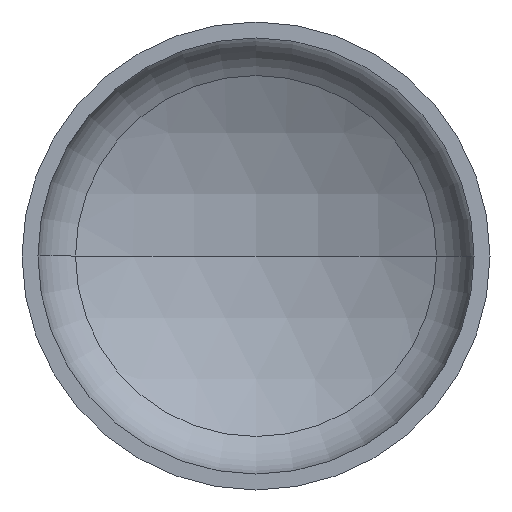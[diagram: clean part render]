
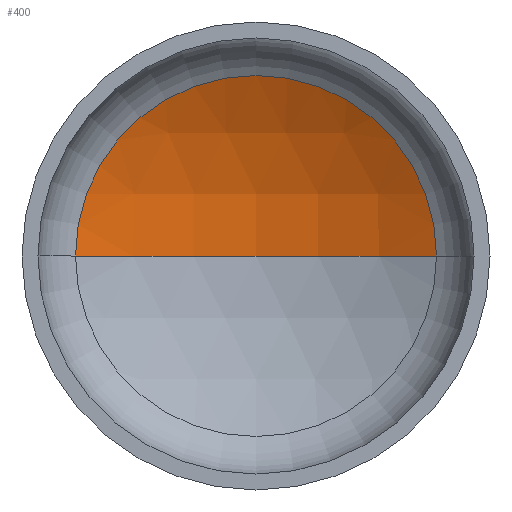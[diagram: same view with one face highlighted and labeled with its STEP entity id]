
A CAD part, front view. The second image highlights one B-rep face of the part: STEP entity #400.
In plain terms, the highlighted spherical face has radius 800 mm.
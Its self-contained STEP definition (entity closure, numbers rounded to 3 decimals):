
#2 = EDGE_LOOP ( 'NONE', ( #346, #138, #111 ) ) ;
#4 = AXIS2_PLACEMENT_3D ( 'NONE', #245, #408, #264 ) ;
#23 = DIRECTION ( 'NONE',  ( -1., 0., 0. ) ) ;
#35 = AXIS2_PLACEMENT_3D ( 'NONE', #333, #279, #85 ) ;
#39 = AXIS2_PLACEMENT_3D ( 'NONE', #320, #372, #23 ) ;
#40 = AXIS2_PLACEMENT_3D ( 'NONE', #192, #360, #218 ) ;
#63 = VERTEX_POINT ( 'NONE', #233 ) ;
#85 = DIRECTION ( 'NONE',  ( 1., 0., 0. ) ) ;
#94 = EDGE_CURVE ( 'NONE', #63, #106, #313, .T. ) ;
#95 = EDGE_CURVE ( 'NONE', #134, #63, #255, .T. ) ;
#105 = EDGE_CURVE ( 'NONE', #134, #106, #122, .T. ) ;
#106 = VERTEX_POINT ( 'NONE', #340 ) ;
#111 = ORIENTED_EDGE ( 'NONE', *, *, #94, .T. ) ;
#122 = CIRCLE ( 'NONE', #35, 800. ) ;
#134 = VERTEX_POINT ( 'NONE', #211 ) ;
#138 = ORIENTED_EDGE ( 'NONE', *, *, #95, .T. ) ;
#192 = CARTESIAN_POINT ( 'NONE',  ( 0., 245.792, 0. ) ) ;
#211 = CARTESIAN_POINT ( 'NONE',  ( 0., 344.93, 0. ) ) ;
#218 = DIRECTION ( 'NONE',  ( 1., 0., 0. ) ) ;
#233 = CARTESIAN_POINT ( 'NONE',  ( 385.736, 245.792, 0. ) ) ;
#245 = CARTESIAN_POINT ( 'NONE',  ( 0., -455.07, 0. ) ) ;
#255 = CIRCLE ( 'NONE', #39, 800. ) ;
#257 = FACE_OUTER_BOUND ( 'NONE', #2, .T. ) ;
#264 = DIRECTION ( 'NONE',  ( -1., 0., 0. ) ) ;
#265 = SPHERICAL_SURFACE ( 'NONE', #4, 800. ) ;
#279 = DIRECTION ( 'NONE',  ( 0., 0., 1. ) ) ;
#313 = CIRCLE ( 'NONE', #40, 385.736 ) ;
#320 = CARTESIAN_POINT ( 'NONE',  ( 0., -455.07, 0. ) ) ;
#333 = CARTESIAN_POINT ( 'NONE',  ( 0., -455.07, 0. ) ) ;
#340 = CARTESIAN_POINT ( 'NONE',  ( -385.736, 245.792, 0. ) ) ;
#346 = ORIENTED_EDGE ( 'NONE', *, *, #105, .F. ) ;
#360 = DIRECTION ( 'NONE',  ( 0., -1., 0. ) ) ;
#372 = DIRECTION ( 'NONE',  ( 0., 0., -1. ) ) ;
#400 = ADVANCED_FACE ( 'NONE', ( #257 ), #265, .F. ) ;
#408 = DIRECTION ( 'NONE',  ( 0., 0., -1. ) ) ;
